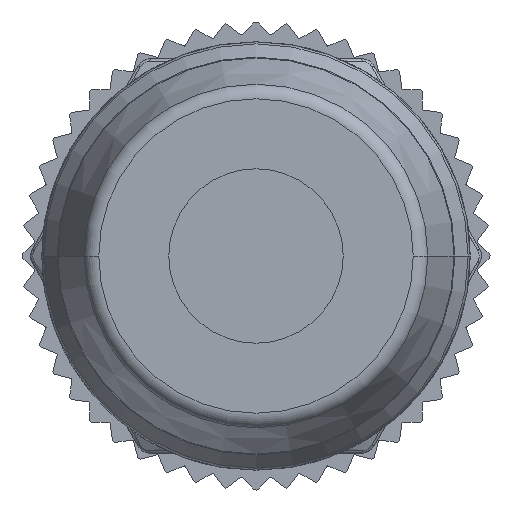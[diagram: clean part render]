
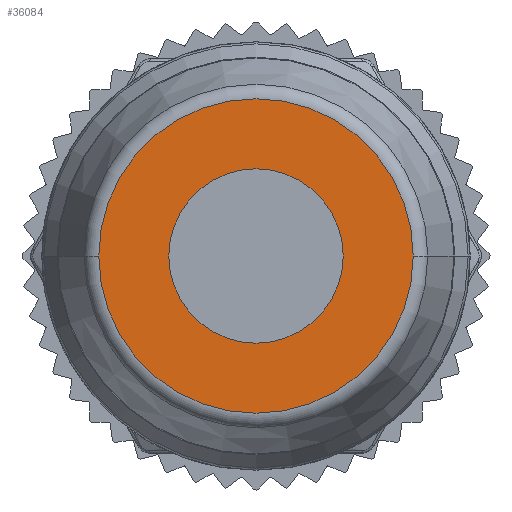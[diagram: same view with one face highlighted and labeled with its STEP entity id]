
A CAD part, left-side view. The second image highlights one B-rep face of the part: STEP entity #36084.
In plain terms, the highlighted planar face has unit normal (-1, 0, 0).
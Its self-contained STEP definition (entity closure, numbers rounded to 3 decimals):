
#7659=CARTESIAN_POINT('',(-44.,0.,0.));
#7660=DIRECTION('',(-1.,0.,0.));
#7661=DIRECTION('',(0.,1.,0.));
#7662=AXIS2_PLACEMENT_3D('',#7659,#7660,#7661);
#7664=CARTESIAN_POINT('',(-44.,0.,0.));
#7665=DIRECTION('',(-1.,0.,0.));
#7666=DIRECTION('',(0.,-1.,0.));
#7667=AXIS2_PLACEMENT_3D('',#7664,#7665,#7666);
#7669=CARTESIAN_POINT('',(-44.,0.,0.));
#7670=DIRECTION('',(-1.,0.,0.));
#7671=DIRECTION('',(0.,0.,-1.));
#7672=AXIS2_PLACEMENT_3D('',#7669,#7670,#7671);
#7674=CARTESIAN_POINT('',(-44.,0.,0.));
#7675=DIRECTION('',(-1.,0.,0.));
#7676=DIRECTION('',(0.,0.,1.));
#7677=AXIS2_PLACEMENT_3D('',#7674,#7675,#7676);
#21228=CARTESIAN_POINT('',(-44.,5.14,0.));
#21229=CARTESIAN_POINT('',(-44.,-5.14,0.));
#21230=VERTEX_POINT('',#21228);
#21231=VERTEX_POINT('',#21229);
#23068=CARTESIAN_POINT('',(-44.,0.,-2.85));
#23069=CARTESIAN_POINT('',(-44.,0.,2.85));
#23070=VERTEX_POINT('',#23068);
#23071=VERTEX_POINT('',#23069);
#36068=CARTESIAN_POINT('',(-44.,0.,0.));
#36069=DIRECTION('',(1.,0.,0.));
#36070=DIRECTION('',(0.,-1.,0.));
#36071=AXIS2_PLACEMENT_3D('',#36068,#36069,#36070);
#36072=PLANE('',#36071);
#36073=ORIENTED_EDGE('',*,*,#36051,.F.);
#36075=ORIENTED_EDGE('',*,*,#36074,.F.);
#36076=EDGE_LOOP('',(#36073,#36075));
#36077=FACE_OUTER_BOUND('',#36076,.F.);
#36079=ORIENTED_EDGE('',*,*,#36078,.T.);
#36081=ORIENTED_EDGE('',*,*,#36080,.T.);
#36082=EDGE_LOOP('',(#36079,#36081));
#36083=FACE_BOUND('',#36082,.F.);
#36084=ADVANCED_FACE('',(#36077,#36083),#36072,.F.);
#7663=CIRCLE('',#7662,5.14);
#7668=CIRCLE('',#7667,5.14);
#7673=CIRCLE('',#7672,2.85);
#7678=CIRCLE('',#7677,2.85);
#36051=EDGE_CURVE('',#21230,#21231,#7663,.T.);
#36074=EDGE_CURVE('',#21231,#21230,#7668,.T.);
#36078=EDGE_CURVE('',#23070,#23071,#7673,.T.);
#36080=EDGE_CURVE('',#23071,#23070,#7678,.T.);
